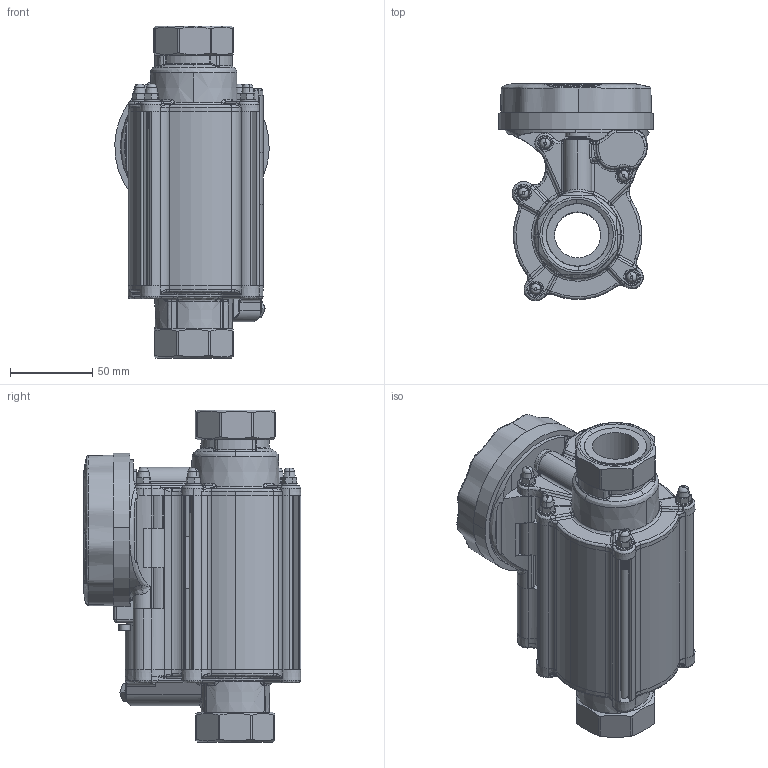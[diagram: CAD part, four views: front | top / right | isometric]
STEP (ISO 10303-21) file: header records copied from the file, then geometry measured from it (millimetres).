
FILE_DESCRIPTION (( 'STEP AP214' ), '1' );
FILE_NAME ('PAP-L032 3D.STEP', '2020-01-31T15:42:23', ( 'Windows User' ), ( 'Watts Water' ), 'SwSTEP 2.0', 'SolidWorks 2017', '' );
FILE_SCHEMA (( 'AUTOMOTIVE_DESIGN' ));
Length unit declared in the file: millimetre
Products named in the file (1): PAP-L032 3D
Bounding box: 93.93 x 132.45 x 202 mm (x, y, z)
Surface area: 132802.7 mm2 (no closed solid volume)
Topology: 0 solids, 57 shells, 1240 faces, 3830 edges, 2539 vertices
Faces by surface type: bspline 385, plane 298, cylinder 288, cone 241, torus 26, sphere 2
Entity records: 85827 total; most frequent: CARTESIAN_POINT 41309, ORIENTED_EDGE 6566, DIRECTION 5856, EDGE_CURVE 3794, VERTEX_POINT 2539, AXIS2_PLACEMENT_3D 2298, CIRCLE 1442, EDGE_LOOP 1333
